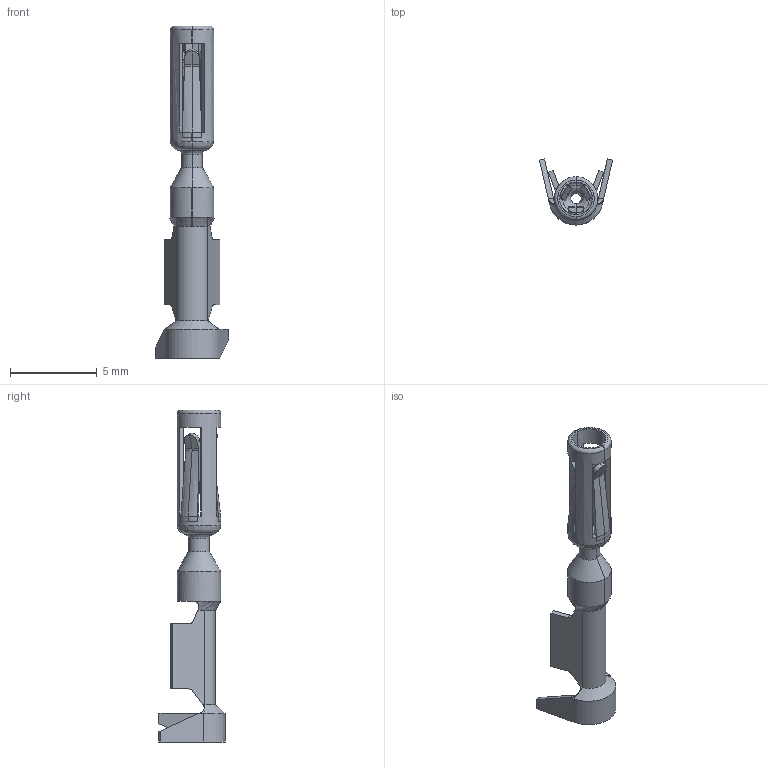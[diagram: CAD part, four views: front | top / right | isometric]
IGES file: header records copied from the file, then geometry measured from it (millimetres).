
Start section:  PTC IGES file: c-770520-3-d2-3d.igs
Global section: file name: c-770520-3-d2-3d.igs; native system: Pro/ENGINEER by Parametric Technology Corporation; preprocessor: 2005450; author: workeradm; organization: Unknown; date: 080829.030552; units: millimetre
Bounding box: 4.2 x 3.8 x 19.1 mm (x, y, z)
Surface area: 245.4 mm2 (no closed solid volume)
Topology: 0 solids, 0 shells, 168 faces, 838 edges, 838 vertices
Faces by surface type: bspline 130, revolution 38
